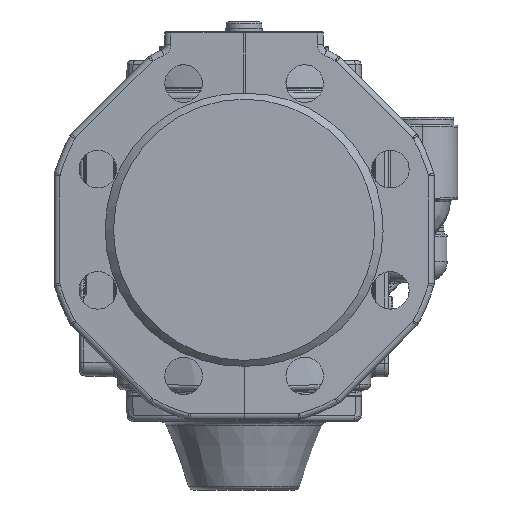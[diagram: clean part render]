
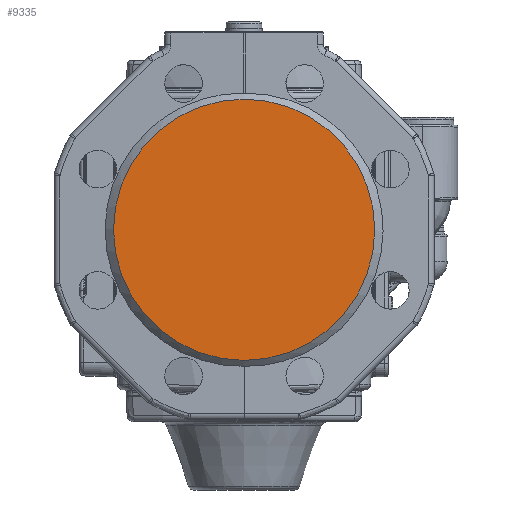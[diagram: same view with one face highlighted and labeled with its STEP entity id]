
A CAD part, left-side view. The second image highlights one B-rep face of the part: STEP entity #9335.
In plain terms, the highlighted planar face has unit normal (-1, 0, 0).
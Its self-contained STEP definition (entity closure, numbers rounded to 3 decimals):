
#9335=ADVANCED_FACE('',(#12794),#11844,.T.);
#11844=PLANE('',#41307);
#12794=FACE_OUTER_BOUND('',#14959,.T.);
#14959=EDGE_LOOP('',(#18723));
#18723=ORIENTED_EDGE('',*,*,#33948,.F.);
#30173=VERTEX_POINT('',#59634);
#33948=EDGE_CURVE('',#30173,#30173,#39085,.T.);
#39085=CIRCLE('',#41306,66.);
#41306=AXIS2_PLACEMENT_3D('',#59633,#46436,#46437);
#41307=AXIS2_PLACEMENT_3D('',#59635,#46438,#46439);
#46436=DIRECTION('',(1.,0.,0.));
#46437=DIRECTION('',(0.,0.,1.));
#46438=DIRECTION('',(-1.,0.,0.));
#46439=DIRECTION('',(0.,0.,1.));
#59633=CARTESIAN_POINT('',(-155.,-1.,-1.));
#59634=CARTESIAN_POINT('',(-155.,-1.,65.));
#59635=CARTESIAN_POINT('',(-155.,-1.,-1.));
